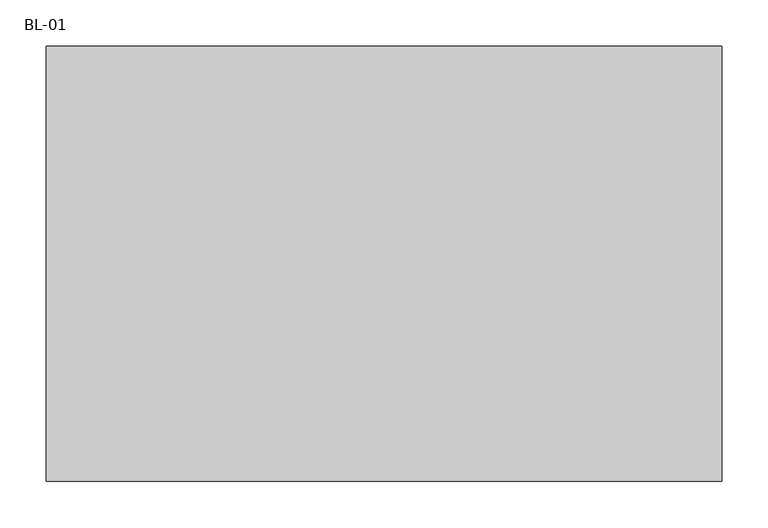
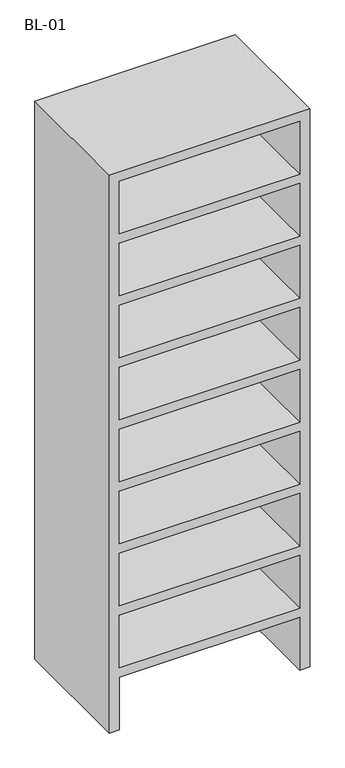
"""IFC4 building model written with IfcOpenShell, lengths in millimetres: furniture geometry, 8 ESTANTES-BLANCOS : BL-01."""

import ifcopenshell
import ifcopenshell.guid

model = None  # the IFC model being written
_history = None  # IfcOwnerHistory: only IFC2X3 demands one
_inside = {}  # id of a spatial element -> (the spatial element, [elements in it])
_under = {}  # id of a project, library or spatial element -> (it, [spatial elements below it])
_declared = {}  # id of a project -> (the project, [libraries it declares])
_typed = {}  # id of a type object -> (the type object, [elements of that type])
_made_of = {}  # id of a material, layer set ... -> (it, [elements and type objects made of it])


def new_model(schema):
    """Start an empty IFC model of exactly this schema.

    Asked for "IFC4X3", IfcOpenShell would pick the latest addendum, in which some entities
    have other attributes; the version numbers below select the first issue.
    IFC2X3 requires an IfcOwnerHistory on every rooted entity: one is made here for all.
    """
    global model, _history
    if schema == "IFC4X3":
        model = ifcopenshell.file(schema_version=(4, 3, 0, 0))
    else:
        model = ifcopenshell.file(schema=schema)
    _inside.clear()
    _under.clear()
    _declared.clear()
    _typed.clear()
    _made_of.clear()
    _history = None
    if model.schema == "IFC2X3":
        org = make("IfcOrganization", Name="unknown")
        user = make(
            "IfcPersonAndOrganization",
            ThePerson=make("IfcPerson", FamilyName="unknown"),
            TheOrganization=org,
        )
        app = make(
            "IfcApplication",
            ApplicationDeveloper=org,
            Version="unknown",
            ApplicationFullName="unknown",
            ApplicationIdentifier="unknown",
        )
        _history = make(
            "IfcOwnerHistory",
            OwningUser=user,
            OwningApplication=app,
            ChangeAction="ADDED",
            CreationDate=0,
        )
    return model


def make(cls, **values):
    """One entity of the class cls with the attributes given. An attribute that is None is left unset."""
    return model.create_entity(
        cls, **{name: value for name, value in values.items() if value is not None}
    )


def rooted(cls, **values):
    """An entity with a GlobalId (a new one), such as an element, a storey or a relation."""
    return make(cls, GlobalId=ifcopenshell.guid.new(), OwnerHistory=_history, **values)


def si_unit(unit_type, name, prefix=None):
    """IfcSIUnit, for example si_unit("LENGTHUNIT", "METRE", prefix="MILLI")."""
    return make("IfcSIUnit", UnitType=unit_type, Prefix=prefix, Name=name)


def assignment(units):
    """IfcUnitAssignment: the units of a project."""
    return None if units is None else make("IfcUnitAssignment", Units=units)


def point(xyz):
    """IfcCartesianPoint."""
    return None if xyz is None else make("IfcCartesianPoint", Coordinates=xyz)


def direction(xyz):
    """IfcDirection."""
    return None if xyz is None else make("IfcDirection", DirectionRatios=xyz)


def frame(location, z_axis=None, x_axis=None):
    """IfcAxis2Placement3D, a coordinate frame: its origin and axes. An axis left out is left unset."""
    return make(
        "IfcAxis2Placement3D",
        Location=point(location),
        Axis=direction(z_axis),
        RefDirection=direction(x_axis),
    )


def origin():
    """The frame at (0, 0, 0) with its axes left unset."""
    return frame((0.0, 0.0, 0.0))


def place(relative_to, where):
    """IfcLocalPlacement: puts the frame where relative to a parent placement (None: the world)."""
    return make(
        "IfcLocalPlacement", PlacementRelTo=relative_to, RelativePlacement=where
    )


def context(
    kind, dimensions, precision=None, world=None, true_north=None, identifier=None
):
    """IfcGeometricRepresentationContext, for example the 3D "Model" context."""
    return make(
        "IfcGeometricRepresentationContext",
        ContextIdentifier=identifier,
        ContextType=kind,
        CoordinateSpaceDimension=dimensions,
        Precision=precision,
        WorldCoordinateSystem=world,
        TrueNorth=true_north,
    )


def project(units=None, contexts=None):
    """IfcProject with its units and contexts."""
    return rooted(
        "IfcProject",
        Name="project",
        RepresentationContexts=contexts,
        UnitsInContext=assignment(units),
    )


def spatial(cls, under=None, at=None, **own):
    """A site, building, storey or space (cls), placed at a placement, below another one or the project."""
    s = rooted(cls, ObjectPlacement=at, **own)
    if under is not None:
        _under.setdefault(under.id(), (under, []))[1].append(s)
    return s


def polyline(points):
    """IfcPolyline through the points."""
    return make("IfcPolyline", Points=[point(p) for p in points])


def outline(outer, holes=None, kind="AREA"):
    """IfcArbitraryClosedProfileDef: a profile drawn as a closed curve; with holes, ...WithVoids."""
    if holes is None:
        return make("IfcArbitraryClosedProfileDef", ProfileType=kind, OuterCurve=outer)
    return make(
        "IfcArbitraryProfileDefWithVoids",
        ProfileType=kind,
        OuterCurve=outer,
        InnerCurves=holes,
    )


def extrude(swept, where, along, depth):
    """IfcExtrudedAreaSolid: the profile swept, set in the frame where, extruded along a direction by depth."""
    return make(
        "IfcExtrudedAreaSolid",
        SweptArea=swept,
        Position=where,
        ExtrudedDirection=direction(along),
        Depth=depth,
    )


def shape(context_of_items, identifier, shape_type, items):
    """IfcShapeRepresentation: the items that make up one representation, for example the "Body"."""
    return make(
        "IfcShapeRepresentation",
        ContextOfItems=context_of_items,
        RepresentationIdentifier=identifier,
        RepresentationType=shape_type,
        Items=items,
    )


def source(mapping_origin, context_of_items, identifier, shape_type, items):
    """IfcRepresentationMap: a shape defined once, which mapped items show again and again."""
    return make(
        "IfcRepresentationMap",
        MappingOrigin=mapping_origin,
        MappedRepresentation=shape(context_of_items, identifier, shape_type, items),
    )


def transform(
    local_origin,
    x_axis=None,
    y_axis=None,
    z_axis=None,
    scale=None,
    scale2=None,
    scale3=None,
    uniform=True,
):
    """IfcCartesianTransformationOperator3D, or its non-uniform kind. x_axis, y_axis, z_axis: its Axis1, 2, 3."""
    if uniform:
        return make(
            "IfcCartesianTransformationOperator3D",
            Axis1=direction(x_axis),
            Axis2=direction(y_axis),
            LocalOrigin=point(local_origin),
            Scale=scale,
            Axis3=direction(z_axis),
        )
    return make(
        "IfcCartesianTransformationOperator3DnonUniform",
        Axis1=direction(x_axis),
        Axis2=direction(y_axis),
        LocalOrigin=point(local_origin),
        Scale=scale,
        Axis3=direction(z_axis),
        Scale2=scale2,
        Scale3=scale3,
    )


def mapped(mapping_source, mapping_target):
    """IfcMappedItem: shows the shape of a source again, moved by a transform."""
    return make(
        "IfcMappedItem", MappingSource=mapping_source, MappingTarget=mapping_target
    )


def made_of(thing, what):
    """Note that an element or type object is made of a material, layer set ...; save() writes the relation."""
    if what is not None:
        _made_of.setdefault(what.id(), (what, []))[1].append(thing)
    return thing


def element(
    cls,
    number,
    at=None,
    inside=None,
    cuts=None,
    type_object=None,
    material=None,
    context=None,
    identifier="Body",
    shape_type=None,
    held_by="IfcProductDefinitionShape",
    body=None,
    shapes=None,
    **own,
):
    """One element of the class cls, such as IfcWall. Its Tag is "e" and its number.

    at: its placement. inside: the storey or other place that contains it. cuts: it is an
    opening in that element (IfcRelVoidsElement). A single representation is given by context,
    identifier, shape_type and body (its items); several are given by shapes. held_by: the class
    of the entity that holds the representations. save() writes the other relations.
    """
    e = rooted(cls, Tag="e%d" % number, ObjectPlacement=at, **own)
    if body is not None:
        shapes = [shape(context, identifier, shape_type, body)]
    if shapes is not None:
        e.Representation = make(held_by, Representations=shapes)
    if inside is not None:
        _inside.setdefault(inside.id(), (inside, []))[1].append(e)
    if cuts is not None:
        rooted(
            "IfcRelVoidsElement", RelatingBuildingElement=cuts, RelatedOpeningElement=e
        )
    if type_object is not None:
        _typed.setdefault(type_object.id(), (type_object, []))[1].append(e)
    return made_of(e, material)


def aggregate(whole, parts):
    """IfcRelAggregates: a whole, such as a stair, and the parts it consists of."""
    return rooted("IfcRelAggregates", RelatingObject=whole, RelatedObjects=parts)


def save(model, path):
    """Write the relations noted so far, then the file.

    IfcRelAggregates (storeys below a building ...), IfcRelContainedInSpatialStructure (elements
    in a storey), IfcRelDefinesByType, IfcRelAssociatesMaterial and IfcRelDeclares: one each for
    every whole, place, type object, material and project.
    """
    for whole, parts in _under.values():
        aggregate(whole, parts)
    for where, things in _inside.values():
        rooted(
            "IfcRelContainedInSpatialStructure",
            RelatedElements=things,
            RelatingStructure=where,
        )
    for kind, things in _typed.values():
        rooted("IfcRelDefinesByType", RelatedObjects=things, RelatingType=kind)
    for what, things in _made_of.values():
        rooted("IfcRelAssociatesMaterial", RelatedObjects=things, RelatingMaterial=what)
    for by, libraries in _declared.values():
        rooted("IfcRelDeclares", RelatingContext=by, RelatedDefinitions=libraries)
    model.write(path)


def bl_01_e26eeb04(model_context):
    return source(origin(), model_context, "Body", "SweptSolid", [
        extrude(outline(polyline([(0.0, -636.0697951), (0.0, -600.0697951), (202.8888889, -600.0697951), (202.8888889, 57.9302049), (0.0, 57.9302049), (0.0, 93.9302049), (2150.0, 93.9302049), (2150.0, -636.0697951), (0.0, -636.0697951)]), holes=[polyline([(1397.3333333, 57.9302049), (1194.4444444, 57.9302049), (1194.4444444, -600.0697951), (1397.3333333, -600.0697951), (1397.3333333, 57.9302049)]), polyline([(716.6666667, -600.0697951), (919.5555556, -600.0697951), (919.5555556, 57.9302049), (716.6666667, 57.9302049), (716.6666667, -600.0697951)]), polyline([(477.7777778, -600.0697951), (680.6666667, -600.0697951), (680.6666667, 57.9302049), (477.7777778, 57.9302049), (477.7777778, -600.0697951)]), polyline([(238.8888889, -600.0697951), (441.7777778, -600.0697951), (441.7777778, 57.9302049), (238.8888889, 57.9302049), (238.8888889, -600.0697951)]), polyline([(955.5555556, 57.9302049), (955.5555556, -600.0697951), (1158.4444444, -600.0697951), (1158.4444444, 57.9302049), (955.5555556, 57.9302049)]), polyline([(1911.1111111, -600.0697951), (2114.0, -600.0697951), (2114.0, 57.9302049), (1911.1111111, 57.9302049), (1911.1111111, -600.0697951)]), polyline([(1433.3333333, 57.9302049), (1433.3333333, -600.0697951), (1636.2222222, -600.0697951), (1636.2222222, 57.9302049), (1433.3333333, 57.9302049)]), polyline([(1875.1111111, -600.0697951), (1875.1111111, 57.9302049), (1672.2222222, 57.9302049), (1672.2222222, -600.0697951), (1875.1111111, -600.0697951)])]), frame((0.0, 100.0, 0.0), z_axis=(0.0, 1.0, 0.0), x_axis=(0.0, 0.0, 1.0)), (0.0, 0.0, 1.0), 470.0),
    ])


if __name__ == "__main__":
    model = new_model("IFC4")
    model_context = context("Model", 3, world=origin())
    ifc_project = project(units=[si_unit("LENGTHUNIT", "METRE", prefix="MILLI")], contexts=[model_context])
    site = spatial("IfcSite", under=ifc_project)
    building = spatial("IfcBuilding", under=site)
    placement = place(None, origin())
    bl_01_shape = bl_01_e26eeb04(model_context)
    element("IfcFurniture", 1, ObjectType="8 ESTANTES-BLANCOS : BL-01", at=placement, inside=building, context=model_context, shape_type="MappedRepresentation", body=[
        mapped(bl_01_shape, transform((0.0, 0.0, 0.0), x_axis=(1.0, 0.0, 0.0), y_axis=(0.0, 1.0, 0.0), z_axis=(0.0, 0.0, 1.0))),
    ])
    save(model, "model.ifc")
